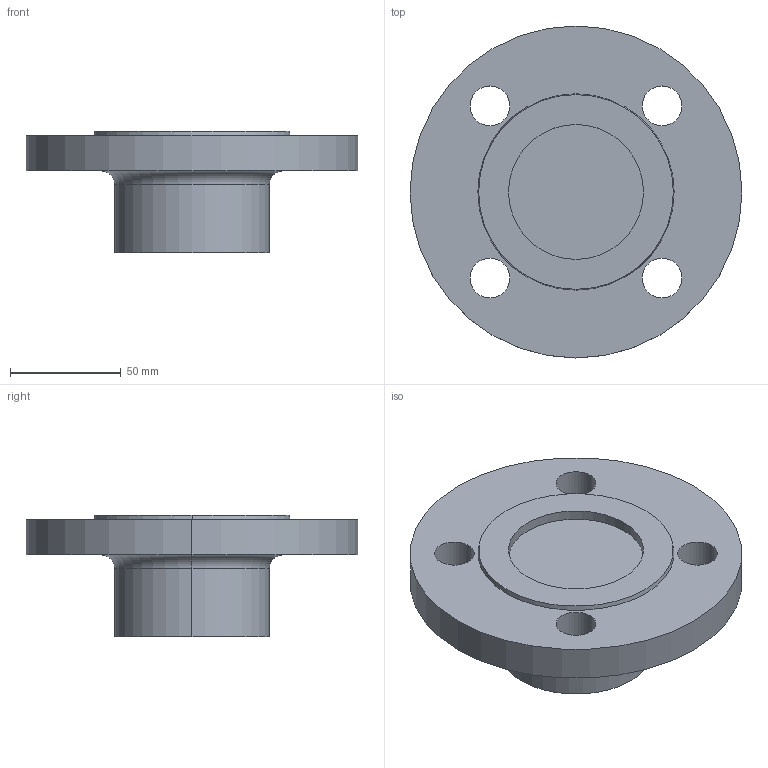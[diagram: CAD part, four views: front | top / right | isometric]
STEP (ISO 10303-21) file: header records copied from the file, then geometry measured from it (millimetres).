
FILE_DESCRIPTION (( 'STEP AP214' ), '1' );
FILE_NAME ('PN40 DN40 Type 21(i) - Type G Face.STEP', '2018-12-30T01:30:41', ( '' ), ( '' ), 'SwSTEP 2.0', 'SolidWorks 2019', '' );
FILE_SCHEMA (( 'AUTOMOTIVE_DESIGN' ));
Length unit declared in the file: millimetre
Products named in the file (1): PN40 DN40 Type 21(i) - Type G Face
Bounding box: 150 x 150 x 55 mm (x, y, z)
Volume: 409724.9 mm3; surface area: 53380.7 mm2
Topology: 1 solids, 1 shells, 23 faces, 52 edges, 34 vertices
Faces by surface type: cylinder 14, plane 5, torus 2, cone 2
Entity records: 716 total; most frequent: DIRECTION 136, CARTESIAN_POINT 110, ORIENTED_EDGE 104, AXIS2_PLACEMENT_3D 60, EDGE_CURVE 52, CIRCLE 36, EDGE_LOOP 34, VERTEX_POINT 34
